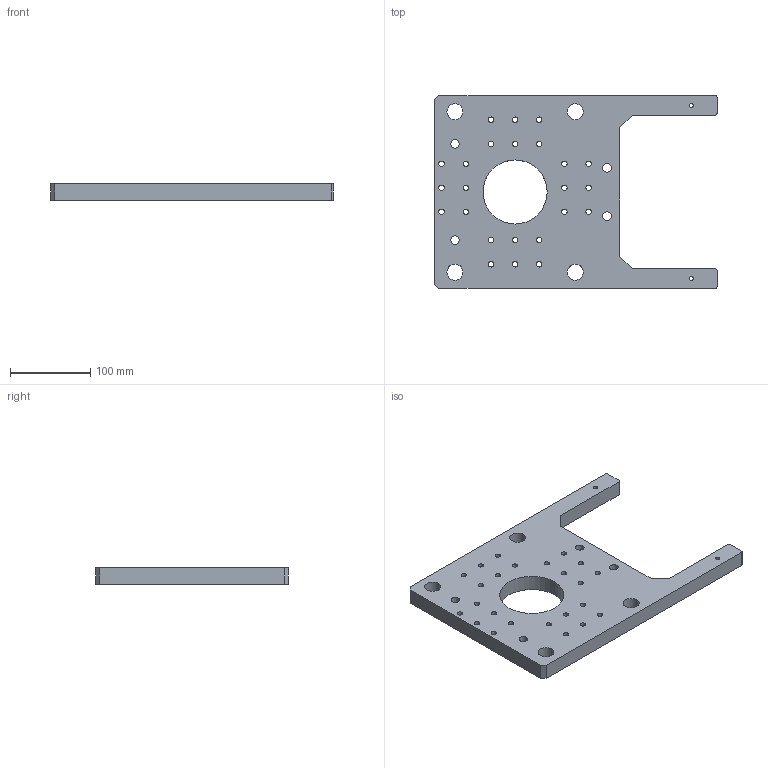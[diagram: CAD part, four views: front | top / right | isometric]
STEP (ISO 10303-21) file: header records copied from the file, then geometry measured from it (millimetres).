
FILE_DESCRIPTION (( 'STEP AP203' ), '1' );
FILE_NAME ('桌面注塑机X定模板.STEP', '2026-06-08T17:31:54', ( 'Windows User' ), ( 'P R C' ), 'SwSTEP 2.0', 'SolidWorks 2025', '' );
FILE_SCHEMA (( 'CONFIG_CONTROL_DESIGN' ));
Length unit declared in the file: millimetre
Products named in the file (1): 桌面注塑机X定模板
Bounding box: 352 x 240 x 20 mm (x, y, z)
Volume: 1075814.2 mm3; surface area: 159180.9 mm2
Topology: 1 solids, 1 shells, 88 faces, 258 edges, 172 vertices
Faces by surface type: cylinder 74, plane 14
Entity records: 3227 total; most frequent: DIRECTION 584, CARTESIAN_POINT 519, ORIENTED_EDGE 516, EDGE_CURVE 258, AXIS2_PLACEMENT_3D 237, VERTEX_POINT 172, EDGE_LOOP 158, CIRCLE 148
